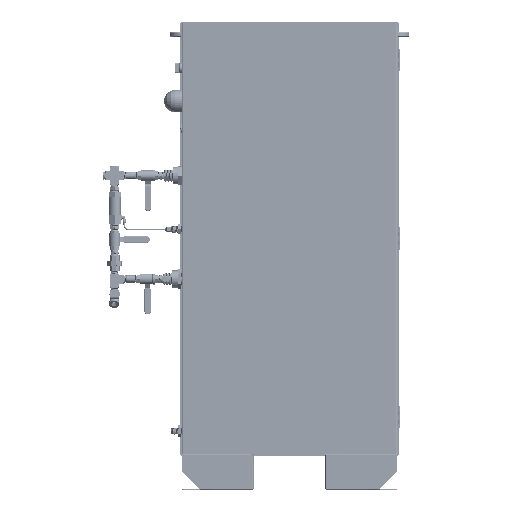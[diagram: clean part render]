
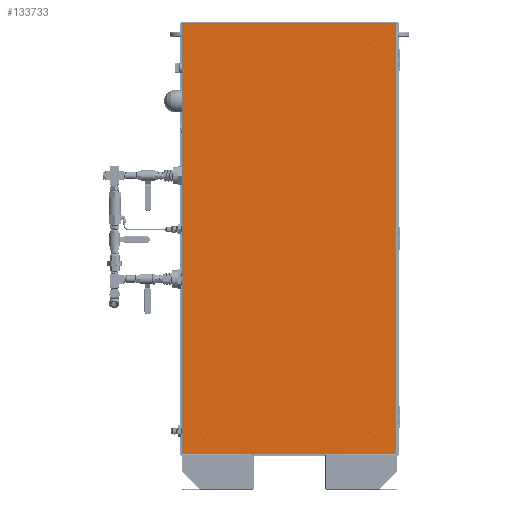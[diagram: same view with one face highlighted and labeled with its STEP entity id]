
A CAD part, left-side view. The second image highlights one B-rep face of the part: STEP entity #133733.
In plain terms, the highlighted planar face has unit normal (-1, 0, 0).
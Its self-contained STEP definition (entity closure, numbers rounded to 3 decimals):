
#4378=PLANE('',#143141);
#6967=FACE_BOUND('',#23484,.T.);
#6968=FACE_BOUND('',#23485,.T.);
#6969=FACE_BOUND('',#23486,.T.);
#6970=FACE_BOUND('',#23487,.T.);
#6971=FACE_BOUND('',#23488,.T.);
#6972=FACE_BOUND('',#23489,.T.);
#15902=FACE_OUTER_BOUND('',#23483,.T.);
#23483=EDGE_LOOP('',(#102734,#102735,#102736,#102737));
#23484=EDGE_LOOP('',(#102738,#102739));
#23485=EDGE_LOOP('',(#102740,#102741));
#23486=EDGE_LOOP('',(#102742,#102743));
#23487=EDGE_LOOP('',(#102744,#102745));
#23488=EDGE_LOOP('',(#102746,#102747));
#23489=EDGE_LOOP('',(#102748,#102749));
#31694=LINE('',#327593,#40074);
#31697=LINE('',#327608,#40077);
#31740=LINE('',#327714,#40120);
#31771=LINE('',#327822,#40151);
#40074=VECTOR('',#165987,39.37);
#40077=VECTOR('',#166002,39.37);
#40120=VECTOR('',#166075,39.37);
#40151=VECTOR('',#166196,39.37);
#46479=CIRCLE('',#143031,0.045);
#46480=CIRCLE('',#143032,0.045);
#46483=CIRCLE('',#143036,0.045);
#46484=CIRCLE('',#143037,0.045);
#46528=CIRCLE('',#143122,0.045);
#46529=CIRCLE('',#143123,0.045);
#46532=CIRCLE('',#143127,0.045);
#46533=CIRCLE('',#143128,0.045);
#46536=CIRCLE('',#143132,0.045);
#46537=CIRCLE('',#143133,0.045);
#46540=CIRCLE('',#143137,0.045);
#46541=CIRCLE('',#143138,0.045);
#56209=VERTEX_POINT('',#327466);
#56210=VERTEX_POINT('',#327467);
#56213=VERTEX_POINT('',#327476);
#56214=VERTEX_POINT('',#327477);
#56253=VERTEX_POINT('',#327591);
#56254=VERTEX_POINT('',#327592);
#56259=VERTEX_POINT('',#327606);
#56260=VERTEX_POINT('',#327607);
#56325=VERTEX_POINT('',#327782);
#56326=VERTEX_POINT('',#327783);
#56329=VERTEX_POINT('',#327792);
#56330=VERTEX_POINT('',#327793);
#56333=VERTEX_POINT('',#327802);
#56334=VERTEX_POINT('',#327803);
#56337=VERTEX_POINT('',#327812);
#56338=VERTEX_POINT('',#327813);
#72730=EDGE_CURVE('',#56209,#56210,#46479,.T.);
#72731=EDGE_CURVE('',#56210,#56209,#46480,.T.);
#72735=EDGE_CURVE('',#56213,#56214,#46483,.T.);
#72736=EDGE_CURVE('',#56214,#56213,#46484,.T.);
#72792=EDGE_CURVE('',#56253,#56254,#31694,.T.);
#72799=EDGE_CURVE('',#56259,#56260,#31697,.T.);
#72853=EDGE_CURVE('',#56253,#56260,#31740,.T.);
#72888=EDGE_CURVE('',#56325,#56326,#46528,.T.);
#72889=EDGE_CURVE('',#56326,#56325,#46529,.T.);
#72893=EDGE_CURVE('',#56329,#56330,#46532,.T.);
#72894=EDGE_CURVE('',#56330,#56329,#46533,.T.);
#72898=EDGE_CURVE('',#56333,#56334,#46536,.T.);
#72899=EDGE_CURVE('',#56334,#56333,#46537,.T.);
#72903=EDGE_CURVE('',#56337,#56338,#46540,.T.);
#72904=EDGE_CURVE('',#56338,#56337,#46541,.T.);
#72908=EDGE_CURVE('',#56259,#56254,#31771,.T.);
#102734=ORIENTED_EDGE('',*,*,#72853,.F.);
#102735=ORIENTED_EDGE('',*,*,#72792,.T.);
#102736=ORIENTED_EDGE('',*,*,#72908,.F.);
#102737=ORIENTED_EDGE('',*,*,#72799,.T.);
#102738=ORIENTED_EDGE('',*,*,#72903,.T.);
#102739=ORIENTED_EDGE('',*,*,#72904,.T.);
#102740=ORIENTED_EDGE('',*,*,#72730,.T.);
#102741=ORIENTED_EDGE('',*,*,#72731,.T.);
#102742=ORIENTED_EDGE('',*,*,#72898,.T.);
#102743=ORIENTED_EDGE('',*,*,#72899,.T.);
#102744=ORIENTED_EDGE('',*,*,#72893,.T.);
#102745=ORIENTED_EDGE('',*,*,#72894,.T.);
#102746=ORIENTED_EDGE('',*,*,#72888,.T.);
#102747=ORIENTED_EDGE('',*,*,#72889,.T.);
#102748=ORIENTED_EDGE('',*,*,#72735,.T.);
#102749=ORIENTED_EDGE('',*,*,#72736,.T.);
#133733=ADVANCED_FACE('',(#15902,#6967,#6968,#6969,#6970,#6971,#6972),#4378,
 .F.);
#143031=AXIS2_PLACEMENT_3D('',#327468,#165861,#165862);
#143032=AXIS2_PLACEMENT_3D('',#327469,#165863,#165864);
#143036=AXIS2_PLACEMENT_3D('',#327478,#165872,#165873);
#143037=AXIS2_PLACEMENT_3D('',#327479,#165874,#165875);
#143122=AXIS2_PLACEMENT_3D('',#327784,#166152,#166153);
#143123=AXIS2_PLACEMENT_3D('',#327785,#166154,#166155);
#143127=AXIS2_PLACEMENT_3D('',#327794,#166163,#166164);
#143128=AXIS2_PLACEMENT_3D('',#327795,#166165,#166166);
#143132=AXIS2_PLACEMENT_3D('',#327804,#166174,#166175);
#143133=AXIS2_PLACEMENT_3D('',#327805,#166176,#166177);
#143137=AXIS2_PLACEMENT_3D('',#327814,#166185,#166186);
#143138=AXIS2_PLACEMENT_3D('',#327815,#166187,#166188);
#143141=AXIS2_PLACEMENT_3D('',#327821,#166194,#166195);
#165861=DIRECTION('center_axis',(1.,0.,0.));
#165862=DIRECTION('ref_axis',(0.,1.,0.));
#165863=DIRECTION('center_axis',(1.,0.,0.));
#165864=DIRECTION('ref_axis',(0.,1.,0.));
#165872=DIRECTION('center_axis',(1.,0.,0.));
#165873=DIRECTION('ref_axis',(0.,1.,0.));
#165874=DIRECTION('center_axis',(1.,0.,0.));
#165875=DIRECTION('ref_axis',(0.,1.,0.));
#165987=DIRECTION('',(0.,0.,-1.));
#166002=DIRECTION('',(0.,0.,1.));
#166075=DIRECTION('',(0.,-1.,0.));
#166152=DIRECTION('center_axis',(1.,0.,0.));
#166153=DIRECTION('ref_axis',(0.,1.,0.));
#166154=DIRECTION('center_axis',(1.,0.,0.));
#166155=DIRECTION('ref_axis',(0.,1.,0.));
#166163=DIRECTION('center_axis',(1.,0.,0.));
#166164=DIRECTION('ref_axis',(0.,1.,0.));
#166165=DIRECTION('center_axis',(1.,0.,0.));
#166166=DIRECTION('ref_axis',(0.,1.,0.));
#166174=DIRECTION('center_axis',(1.,0.,0.));
#166175=DIRECTION('ref_axis',(0.,1.,0.));
#166176=DIRECTION('center_axis',(1.,0.,0.));
#166177=DIRECTION('ref_axis',(0.,1.,0.));
#166185=DIRECTION('center_axis',(1.,0.,0.));
#166186=DIRECTION('ref_axis',(0.,1.,0.));
#166187=DIRECTION('center_axis',(1.,0.,0.));
#166188=DIRECTION('ref_axis',(0.,1.,0.));
#166194=DIRECTION('center_axis',(1.,0.,0.));
#166195=DIRECTION('ref_axis',(0.,1.,0.));
#166196=DIRECTION('',(0.,1.,0.));
#327466=CARTESIAN_POINT('',(0.,21.67,6.437));
#327467=CARTESIAN_POINT('',(0.,21.58,6.437));
#327468=CARTESIAN_POINT('Origin',(0.,21.625,6.437));
#327469=CARTESIAN_POINT('Origin',(0.,21.625,6.437));
#327476=CARTESIAN_POINT('',(0.,2.42,49.687));
#327477=CARTESIAN_POINT('',(0.,2.33,49.687));
#327478=CARTESIAN_POINT('Origin',(0.,2.375,
49.687));
#327479=CARTESIAN_POINT('Origin',(0.,2.375,
49.687));
#327591=CARTESIAN_POINT('',(0.,23.887,52.062));
#327592=CARTESIAN_POINT('',(0.,23.887,4.062));
#327593=CARTESIAN_POINT('',(0.,23.887,52.062));
#327606=CARTESIAN_POINT('',(0.,0.113,4.062));
#327607=CARTESIAN_POINT('',(0.,0.113,52.062));
#327608=CARTESIAN_POINT('',(0.,0.113,4.062));
#327714=CARTESIAN_POINT('',(0.,24.,52.062));
#327782=CARTESIAN_POINT('',(0.,2.42,28.062));
#327783=CARTESIAN_POINT('',(0.,2.33,28.062));
#327784=CARTESIAN_POINT('Origin',(0.,2.375,28.062));
#327785=CARTESIAN_POINT('Origin',(0.,2.375,28.062));
#327792=CARTESIAN_POINT('',(0.,21.67,49.687));
#327793=CARTESIAN_POINT('',(0.,21.58,49.687));
#327794=CARTESIAN_POINT('Origin',(0.,21.625,49.687));
#327795=CARTESIAN_POINT('Origin',(0.,21.625,49.687));
#327802=CARTESIAN_POINT('',(0.,21.67,28.062));
#327803=CARTESIAN_POINT('',(0.,21.58,28.062));
#327804=CARTESIAN_POINT('Origin',(0.,21.625,28.062));
#327805=CARTESIAN_POINT('Origin',(0.,21.625,28.062));
#327812=CARTESIAN_POINT('',(0.,2.42,6.437));
#327813=CARTESIAN_POINT('',(0.,2.33,6.437));
#327814=CARTESIAN_POINT('Origin',(0.,2.375,
6.437));
#327815=CARTESIAN_POINT('Origin',(0.,2.375,
6.437));
#327821=CARTESIAN_POINT('Origin',(0.,12.,43.062));
#327822=CARTESIAN_POINT('',(0.,0.,
4.062));
